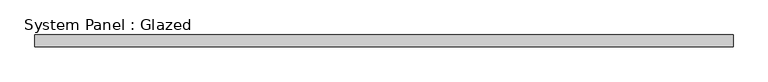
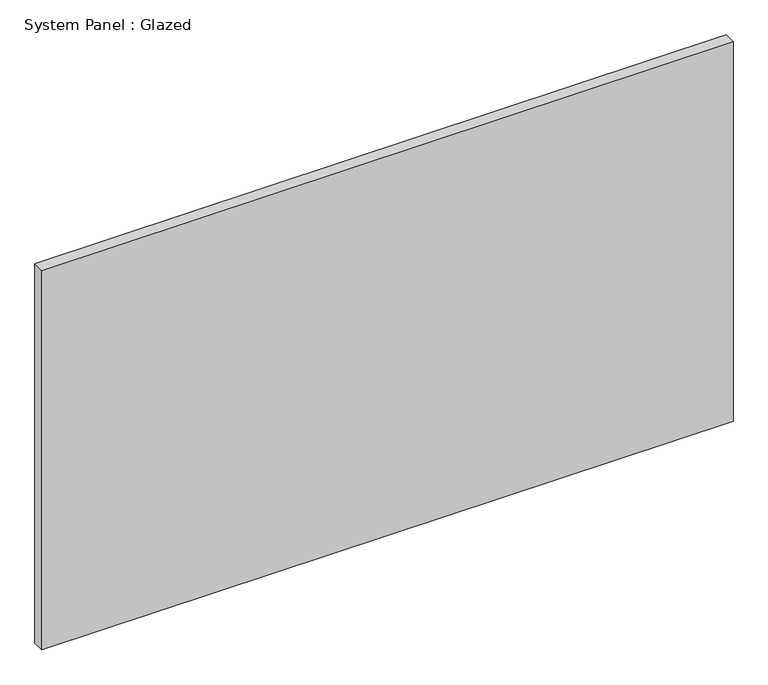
"""IFC4 building model written with IfcOpenShell, lengths in millimetres: plate geometry, System Panel : Glazed."""

from ifc_helpers import new_model, si_unit, origin, origin_with_axes, place, context, project, spatial, polyline, outline, extrude, source, transform, mapped, element, save


def system_panel_glazed_d206c218(model_context):
    return source(origin(), model_context, "Body", "SweptSolid", [
        extrude(outline(polyline([(733.425, 19.05), (-733.425, 19.05), (-733.425, 44.45), (733.425, 44.45), (733.425, 19.05)])), origin_with_axes(), (0.0, 0.0, 1.0), 850.9),
    ])


if __name__ == "__main__":
    model = new_model("IFC4")
    model_context = context("Model", 3, world=origin())
    ifc_project = project(units=[si_unit("LENGTHUNIT", "METRE", prefix="MILLI")], contexts=[model_context])
    site = spatial("IfcSite", under=ifc_project)
    building = spatial("IfcBuilding", under=site)
    placement = place(None, origin())
    system_panel_glazed_shape = system_panel_glazed_d206c218(model_context)
    element("IfcPlate", 1, ObjectType="System Panel : Glazed", at=placement, inside=building, context=model_context, shape_type="MappedRepresentation", body=[
        mapped(system_panel_glazed_shape, transform((0.0, 0.0, 0.0), x_axis=(1.0, 0.0, 0.0), y_axis=(0.0, 1.0, 0.0), z_axis=(0.0, 0.0, 1.0))),
    ])
    save(model, "model.ifc")
